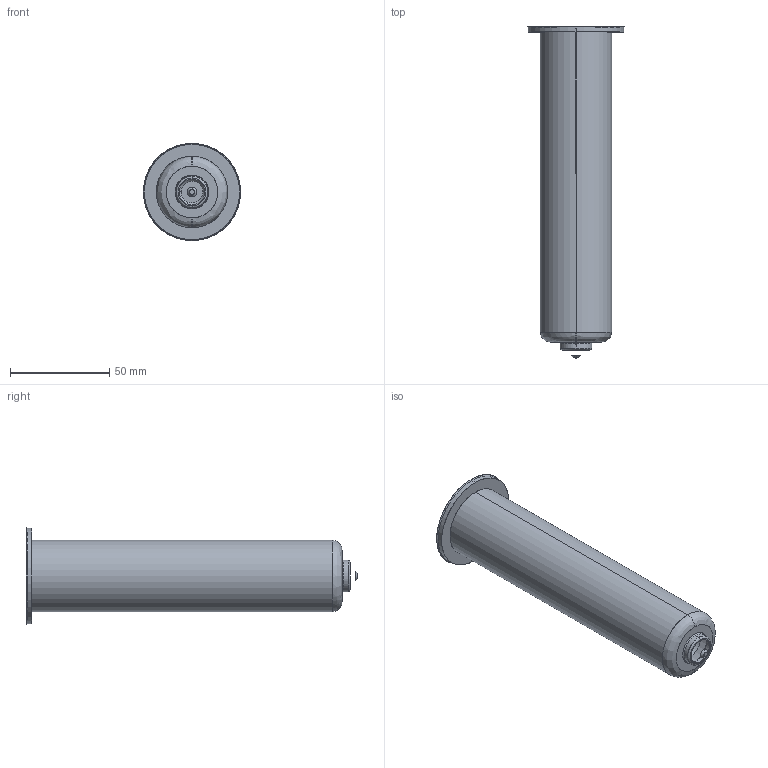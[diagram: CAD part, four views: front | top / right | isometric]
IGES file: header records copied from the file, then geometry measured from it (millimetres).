
Start section: SolidWorks IGES file using analytic representation for surfaces
Global section: file name: C:\Documents and Settings\ws-20\Desktop\TEM\Sede UGEP5004-M-A C-164 L-184 Ød-2.5.IGS; native system: SolidWorks 2012; preprocessor: SolidWorks 2012; author: ws-20; date: 120426.142156; units: millimetre
Bounding box: 49 x 167.42 x 49 mm (x, y, z)
Surface area: 21892.8 mm2 (no closed solid volume)
Topology: 0 solids, 0 shells, 25 faces, 436 edges, 436 vertices
Faces by surface type: revolution 16, bspline 9
